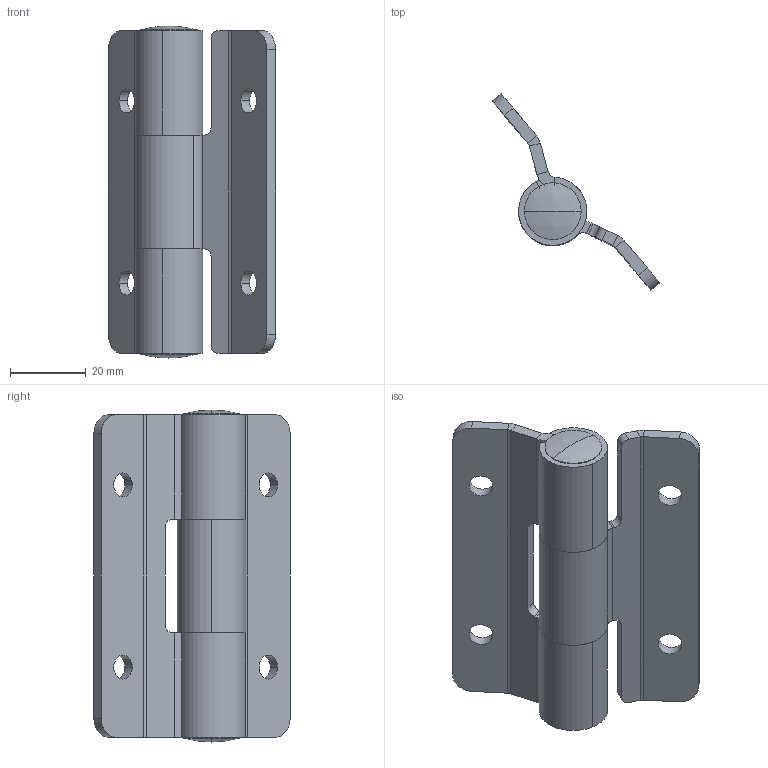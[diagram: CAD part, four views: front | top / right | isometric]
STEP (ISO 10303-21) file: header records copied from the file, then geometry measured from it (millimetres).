
FILE_DESCRIPTION (( 'STEP AP203' ), '1' );
FILE_NAME ('6213732.STEP', '2020-02-21T13:28:24', ( 'gl' ), ( '' ), 'SwSTEP 2.0', 'SolidWorks 2014', '' );
FILE_SCHEMA (( 'CONFIG_CONTROL_DESIGN' ));
Length unit declared in the file: millimetre
Products named in the file (5): 19-0243-1003-A_L65; 19-0243-1004-A; 6213732; 6213732_Coté male; 6213732_Coté femelle
Assembly tree (5 placements, depth 2):
  6213732
    6213732_Coté male
    6213732_Coté femelle
    19-0243-1003-A_L65
    19-0243-1004-A  x2
Bounding box: 44.08 x 51.72 x 87.5 mm (x, y, z)
Volume: 30402.4 mm3; surface area: 22151.1 mm2
Topology: 5 solids, 5 shells, 259 faces, 635 edges, 406 vertices
Faces by surface type: plane 111, cylinder 64, bspline 60, cone 12, torus 8, sphere 4
Entity records: 11030 total; most frequent: CARTESIAN_POINT 4932, ORIENTED_EDGE 1222, DIRECTION 1011, EDGE_CURVE 611, VERTEX_POINT 391, AXIS2_PLACEMENT_3D 338, VECTOR 335, LINE 335
